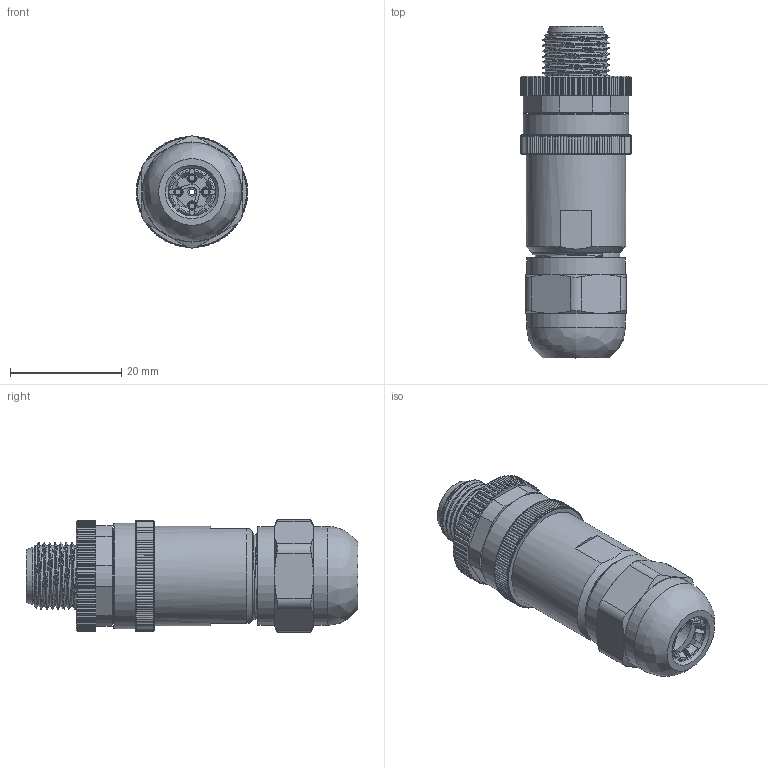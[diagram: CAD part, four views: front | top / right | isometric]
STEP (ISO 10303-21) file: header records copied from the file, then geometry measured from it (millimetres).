
FILE_DESCRIPTION(/* description */ (''),/* implementation_level */ '2;1');
FILE_NAME(/* name */ 'M12-4MS.P-PG9.stp',/* time_stamp */ '2024-09-03T17:20:36+08:00',/* author */ (''),/* organization */ (''),/* preprocessor_version */ 'ST-DEVELOPER v16.7',/* originating_system */ 'SIEMENS PLM Software NX 12.0',/* authorisation */ '');
FILE_SCHEMA (('AP203_CONFIGURATION_CONTROLLED_3D_DESIGN_OF_MECHANICAL_PARTS_AND_ASSEMBLIES_MIM_LF { 1 0 10303 403 2 1 2}'));
Products named in the file (1): lyjA348D87A8b87
Bounding box: 20 x 59.7 x 20.16 mm (x, y, z)
Surface area: 12666 mm2
Topology: 8 solids, 9 shells, 1275 faces, 3041 edges, 1823 vertices
Faces by surface type: cylinder 518, cone 357, plane 340, extrusion 25, torus 17, bspline 14, sphere 4
Full cylindrical faces by diameter (mm): 1 x13, 1.2 x8, 1.4 x4, 1.5 x13, 2 x4, 8.3 x2, 8.5 x1, 8.6 x1, 9.4 x1, 9.5 x1, 9.7 x1, 10 x1, 10.2 x1, 10.8 x1, 11.3 x2, 11.6 x1, 12.1 x1, 12.7 x1, 13.2 x3, 13.4 x1, 13.8 x1, 13.9 x1, 14.4 x1, 14.8 x11, 15.8 x2, 16.4 x1, 16.7 x1, 16.8 x1, 17 x1, 17.2 x4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
Entity records: 52624 total; most frequent: CARTESIAN_POINT 24894, DIRECTION 5789, ORIENTED_EDGE 5630, EDGE_CURVE 2815, AXIS2_PLACEMENT_3D 2356, VERTEX_POINT 1723, EDGE_LOOP 1436, ADVANCED_FACE 1254
